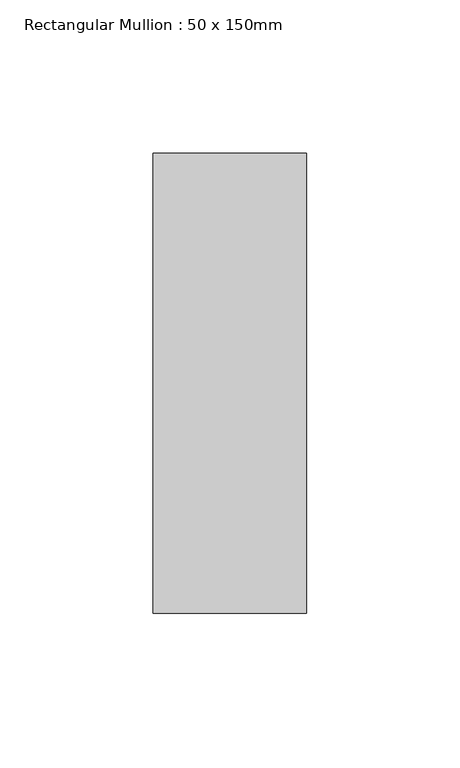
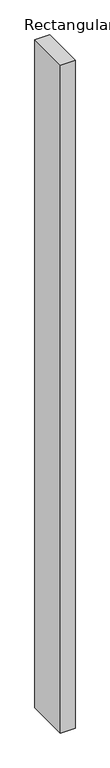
"""IFC4 building model written with IfcOpenShell, lengths in millimetres: member geometry, Rectangular Mullion : 50 x 150mm."""

from ifc_helpers import new_model, si_unit, frame, origin, place, context, project, spatial, polyline, outline, extrude, source, transform, mapped, element, save


def rectangular_mullion_50_x_150mm_3088cb93(model_context):
    return source(origin(), model_context, "Body", "SweptSolid", [
        extrude(outline(polyline([(25.0, 75.0), (25.0, -75.0), (-25.0, -75.0), (-25.0, 75.0), (25.0, 75.0)])), frame((0.0, 0.0, -2403.2043807), z_axis=(0.0, 0.0, 1.0), x_axis=(1.0, 0.0, 0.0)), (0.0, 0.0, 1.0), 2403.2043807),
    ])


if __name__ == "__main__":
    model = new_model("IFC4")
    model_context = context("Model", 3, world=origin())
    ifc_project = project(units=[si_unit("LENGTHUNIT", "METRE", prefix="MILLI")], contexts=[model_context])
    site = spatial("IfcSite", under=ifc_project)
    building = spatial("IfcBuilding", under=site)
    placement = place(None, origin())
    rectangular_mullion_50_x_150mm_shape = rectangular_mullion_50_x_150mm_3088cb93(model_context)
    element("IfcMember", 1, ObjectType="Rectangular Mullion : 50 x 150mm", at=placement, inside=building, context=model_context, shape_type="MappedRepresentation", body=[
        mapped(rectangular_mullion_50_x_150mm_shape, transform((0.0, 0.0, 0.0), x_axis=(1.0, 0.0, 0.0), y_axis=(0.0, 1.0, 0.0), z_axis=(0.0, 0.0, 1.0))),
    ])
    save(model, "model.ifc")
